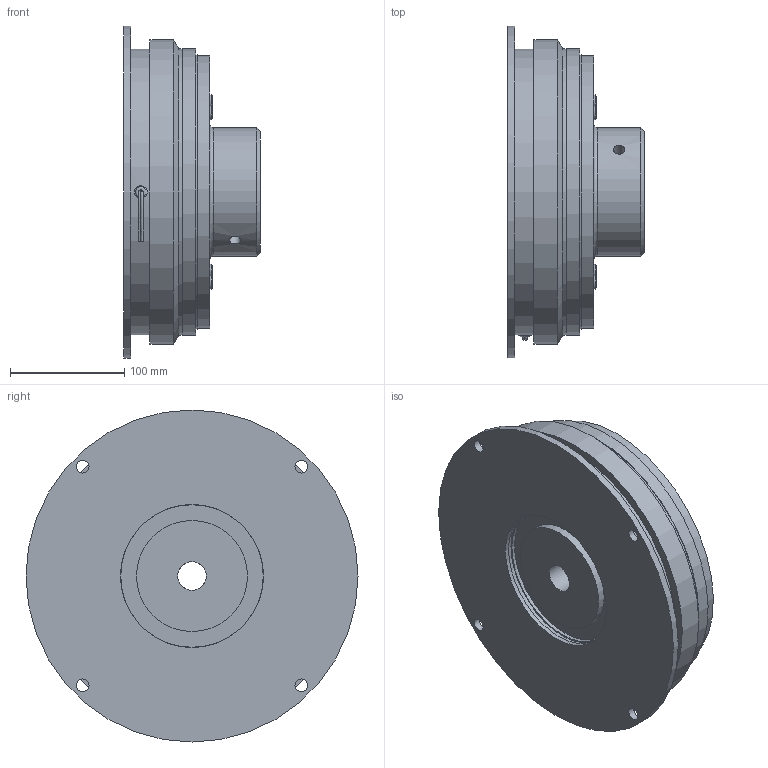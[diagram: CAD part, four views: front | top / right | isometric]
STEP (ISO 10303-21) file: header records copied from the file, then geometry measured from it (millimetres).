
FILE_DESCRIPTION(/* description */ ('','CAx-IF Rec.Pracs.---Representation and Presentation of Product Manufacturing Information (PMI)---4.0---2014-10-13'),/* implementation_level */ '2;1');
FILE_NAME(/* name */ 'X:\INVENTOR\DISEGNI\08_Freni_Friz_Elettmag_Monodisco\08_20 ESAL\08_20_250_02 ESAL250_ME\08_20_250_02 ESAL250_ME@STEP.stp',/* time_stamp */ '2018-01-30T11:37:45+01:00',/* author */ ('stefano'),/* organization */ (''),/* preprocessor_version */ 'ST-DEVELOPER v17',/* originating_system */ 'Autodesk Inventor 2018',/* authorisation */ '');
FILE_SCHEMA (('AP242_MANAGED_MODEL_BASED_3D_ENGINEERING_MIM_LF { 1 0 10303 442 1 1 4 }'));
Length unit declared in the file: millimetre
Products named in the file (1): 08_20_250_02 ESAL250_ME_Substitute_1
Bounding box: 119.4 x 290 x 290 mm (x, y, z)
Volume: 3825820 mm3; surface area: 503730.5 mm2
Topology: 3 solids, 3 shells, 264 faces, 656 edges, 446 vertices
Faces by surface type: plane 94, cylinder 92, cone 66, torus 9, bspline 3
Full cylindrical faces by diameter (mm): 4 x1, 6 x4, 10.106 x2, 11 x5, 12 x8, 12.2 x4, 18 x4, 21 x4, 25 x6, 28 x4, 97 x1, 110 x1, 112 x1, 124.5 x1, 125 x4, 127.4 x1, 152 x1, 180 x1, 234 x1, 238 x1, 240 x1, 249.8 x1, 250 x2, 250.5 x1, 266 x1, 290 x1
Entity records: 8826 total; most frequent: CARTESIAN_POINT 1952, DIRECTION 1529, ORIENTED_EDGE 1306, AXIS2_PLACEMENT_3D 658, EDGE_CURVE 653, VERTEX_POINT 446, CIRCLE 396, EDGE_LOOP 347
